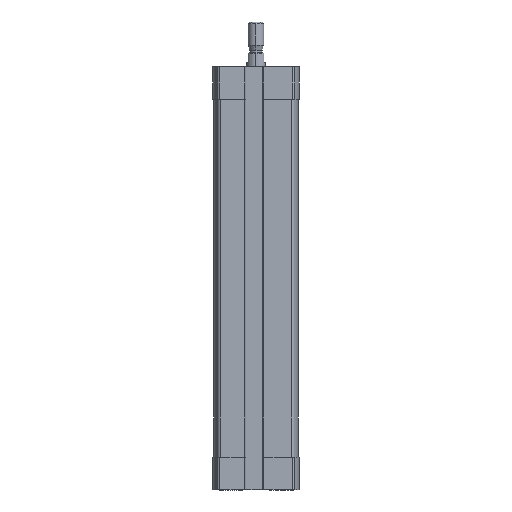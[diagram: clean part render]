
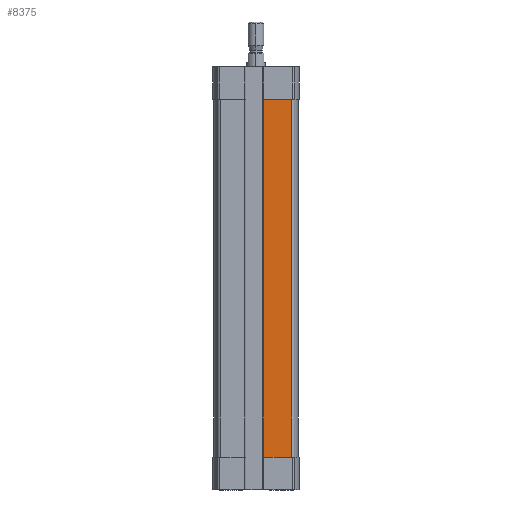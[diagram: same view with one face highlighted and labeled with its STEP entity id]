
A CAD part, left-side view. The second image highlights one B-rep face of the part: STEP entity #8375.
In plain terms, the highlighted planar face has unit normal (-1, 0, 0).
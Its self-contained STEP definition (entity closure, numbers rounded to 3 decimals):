
#136 = DIRECTION ( 'NONE',  ( 0., 0., 1. ) ) ;
#202 = DIRECTION ( 'NONE',  ( 0., 1., 0. ) ) ;
#436 = CARTESIAN_POINT ( 'NONE',  ( -13.5, -2.5, -124.5 ) ) ;
#449 = FACE_OUTER_BOUND ( 'NONE', #10613, .T. ) ;
#574 = LINE ( 'NONE', #4396, #3245 ) ;
#865 = VERTEX_POINT ( 'NONE', #10714 ) ;
#906 = CARTESIAN_POINT ( 'NONE',  ( -13.5, -11.329, -10.5 ) ) ;
#958 = EDGE_CURVE ( 'NONE', #865, #5980, #6259, .T. ) ;
#1409 = ORIENTED_EDGE ( 'NONE', *, *, #958, .T. ) ;
#2165 = AXIS2_PLACEMENT_3D ( 'NONE', #10849, #5488, #136 ) ;
#2254 = CARTESIAN_POINT ( 'NONE',  ( -13.5, -2.5, -124.5 ) ) ;
#3245 = VECTOR ( 'NONE', #5271, 1000. ) ;
#3384 = LINE ( 'NONE', #8260, #4220 ) ;
#3885 = VECTOR ( 'NONE', #8530, 1000. ) ;
#4128 = EDGE_CURVE ( 'NONE', #6364, #865, #6616, .T. ) ;
#4220 = VECTOR ( 'NONE', #202, 1000. ) ;
#4396 = CARTESIAN_POINT ( 'NONE',  ( -13.5, -2.5, -124.5 ) ) ;
#4596 = PLANE ( 'NONE',  #2165 ) ;
#4661 = EDGE_CURVE ( 'NONE', #5312, #6364, #574, .T. ) ;
#4680 = ORIENTED_EDGE ( 'NONE', *, *, #4813, .T. ) ;
#4813 = EDGE_CURVE ( 'NONE', #5980, #5312, #3384, .T. ) ;
#5271 = DIRECTION ( 'NONE',  ( 0., 0., -1. ) ) ;
#5312 = VERTEX_POINT ( 'NONE', #6931 ) ;
#5488 = DIRECTION ( 'NONE',  ( -1., 0., 0. ) ) ;
#5980 = VERTEX_POINT ( 'NONE', #906 ) ;
#6259 = LINE ( 'NONE', #9585, #3885 ) ;
#6364 = VERTEX_POINT ( 'NONE', #2254 ) ;
#6616 = LINE ( 'NONE', #436, #11067 ) ;
#6931 = CARTESIAN_POINT ( 'NONE',  ( -13.5, -2.5, -10.5 ) ) ;
#7166 = ORIENTED_EDGE ( 'NONE', *, *, #4661, .T. ) ;
#7529 = ORIENTED_EDGE ( 'NONE', *, *, #4128, .T. ) ;
#8260 = CARTESIAN_POINT ( 'NONE',  ( -13.5, 0., -10.5 ) ) ;
#8375 = ADVANCED_FACE ( 'NONE', ( #449 ), #4596, .T. ) ;
#8530 = DIRECTION ( 'NONE',  ( 0., 0., 1. ) ) ;
#9395 = DIRECTION ( 'NONE',  ( 0., -1., 0. ) ) ;
#9585 = CARTESIAN_POINT ( 'NONE',  ( -13.5, -11.329, -124.5 ) ) ;
#10613 = EDGE_LOOP ( 'NONE', ( #7529, #1409, #4680, #7166 ) ) ;
#10714 = CARTESIAN_POINT ( 'NONE',  ( -13.5, -11.329, -124.5 ) ) ;
#10849 = CARTESIAN_POINT ( 'NONE',  ( -13.5, -2.5, -124.5 ) ) ;
#11067 = VECTOR ( 'NONE', #9395, 1000. ) ;
